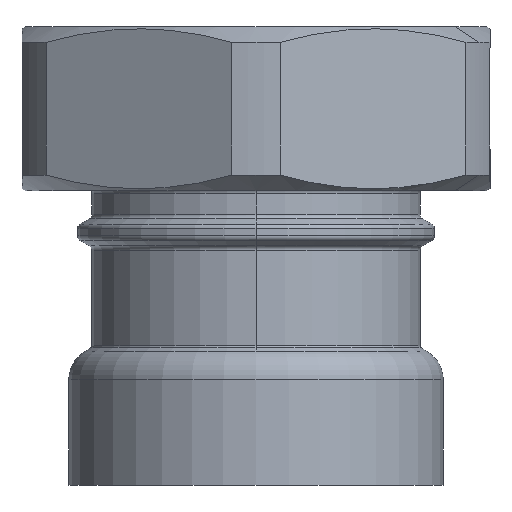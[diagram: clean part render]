
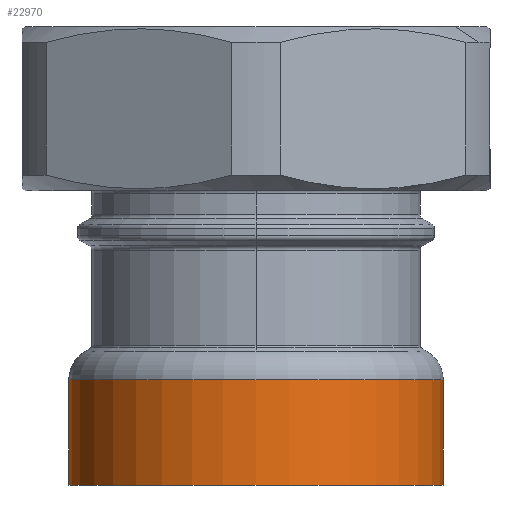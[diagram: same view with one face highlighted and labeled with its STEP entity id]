
A CAD part, left-side view. The second image highlights one B-rep face of the part: STEP entity #22970.
In plain terms, the highlighted cylindrical face has radius 28 mm (diameter 56 mm), a partial arc.
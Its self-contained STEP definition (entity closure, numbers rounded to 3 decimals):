
#21200=CARTESIAN_POINT('',(50.033,40.111,-94.647)
);
#21210=DIRECTION('',(0.,0.,1.));
#21220=VECTOR('',#21210,1.);
#21230=LINE('',#21200,#21220);
#21240=CARTESIAN_POINT('',(50.033,40.111,-103.172)
);
#21250=VERTEX_POINT('',#21240);
#21260=CARTESIAN_POINT('',(50.033,40.111,-87.4)
);
#21270=VERTEX_POINT('',#21260);
#21280=EDGE_CURVE('',#21250,#21270,#21230,.T.);
#21300=CARTESIAN_POINT('',(50.033,68.111,-87.4)
);
#21310=DIRECTION('',(0.,0.,1.));
#21320=DIRECTION('',(0.,1.,0.));
#21330=AXIS2_PLACEMENT_3D('',#21300,#21310,#21320);
#21340=CIRCLE('',#21330,28.);
#21350=CARTESIAN_POINT('',(50.033,96.111,-87.4)
);
#21360=VERTEX_POINT('',#21350);
#21390=CARTESIAN_POINT('',(50.033,96.111,-94.647)
);
#21400=DIRECTION('',(0.,0.,1.));
#21410=VECTOR('',#21400,1.);
#21420=LINE('',#21390,#21410);
#21430=CARTESIAN_POINT('',(50.033,96.111,-103.172)
);
#21440=VERTEX_POINT('',#21430);
#21450=EDGE_CURVE('',#21440,#21360,#21420,.T.);
#21470=CARTESIAN_POINT('',(50.033,68.111,-103.172)
);
#21480=DIRECTION('',(0.,0.,1.));
#21490=DIRECTION('',(0.,1.,0.));
#21500=AXIS2_PLACEMENT_3D('',#21470,#21480,#21490);
#21510=CIRCLE('',#21500,28.);
#22660=EDGE_CURVE('',#21440,#21250,#21510,.T.);
#22850=CARTESIAN_POINT('',(50.033,68.111,-94.647)
);
#22860=DIRECTION('',(0.,0.,1.));
#22870=DIRECTION('',(0.,1.,0.));
#22880=AXIS2_PLACEMENT_3D('',#22850,#22860,#22870);
#22890=CYLINDRICAL_SURFACE('',#22880,28.);
#22900=EDGE_CURVE('',#21360,#21270,#21340,.T.);
#22910=ORIENTED_EDGE('',*,*,#22900,.F.);
#22920=ORIENTED_EDGE('',*,*,#21280,.T.);
#22930=ORIENTED_EDGE('',*,*,#22660,.T.);
#22940=ORIENTED_EDGE('',*,*,#21450,.F.);
#22950=EDGE_LOOP('',(#22940,#22930,#22920,#22910));
#22960=FACE_OUTER_BOUND('',#22950,.T.);
#22970=ADVANCED_FACE('',(#22960),#22890,.T.);
